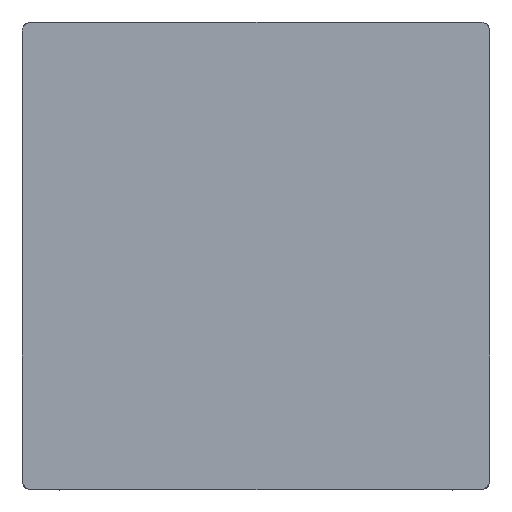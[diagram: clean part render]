
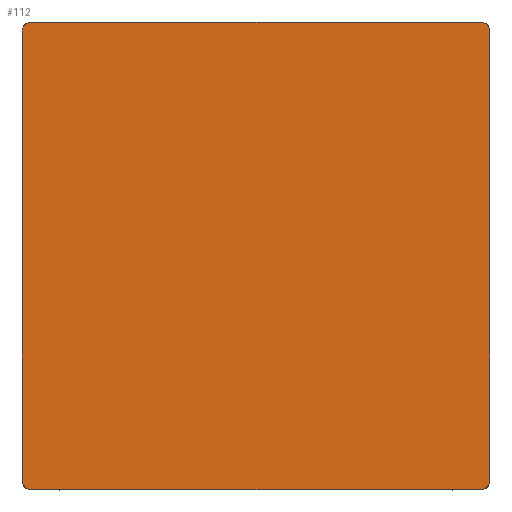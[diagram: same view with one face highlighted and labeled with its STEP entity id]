
A CAD part, top view. The second image highlights one B-rep face of the part: STEP entity #112.
In plain terms, the highlighted planar face has unit normal (0, 0, 1).
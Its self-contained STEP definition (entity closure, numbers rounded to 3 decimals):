
#112=ADVANCED_FACE($,(#342),#2814,.T.);
#342=FACE_OUTER_BOUND($,#572,.T.);
#572=EDGE_LOOP($,(#836,#837,#838,#839,#840,#841,#842,#843));
#836=ORIENTED_EDGE($,*,*,#1887,.F.);
#837=ORIENTED_EDGE($,*,*,#1878,.F.);
#838=ORIENTED_EDGE($,*,*,#1886,.F.);
#839=ORIENTED_EDGE($,*,*,#1877,.F.);
#840=ORIENTED_EDGE($,*,*,#1885,.F.);
#841=ORIENTED_EDGE($,*,*,#1876,.F.);
#842=ORIENTED_EDGE($,*,*,#1884,.F.);
#843=ORIENTED_EDGE($,*,*,#1879,.F.);
#1876=EDGE_CURVE($,#2405,#2404,#3070,.T.);
#1877=EDGE_CURVE($,#2407,#2406,#3071,.T.);
#1878=EDGE_CURVE($,#2409,#2408,#3072,.T.);
#1879=EDGE_CURVE($,#2411,#2410,#3073,.T.);
#1884=EDGE_CURVE($,#2410,#2405,#2918,.T.);
#1885=EDGE_CURVE($,#2404,#2407,#2919,.T.);
#1886=EDGE_CURVE($,#2406,#2409,#2920,.T.);
#1887=EDGE_CURVE($,#2408,#2411,#2921,.T.);
#2404=VERTEX_POINT($,#3870);
#2405=VERTEX_POINT($,#3871);
#2406=VERTEX_POINT($,#3872);
#2407=VERTEX_POINT($,#3873);
#2408=VERTEX_POINT($,#3874);
#2409=VERTEX_POINT($,#3875);
#2410=VERTEX_POINT($,#3876);
#2411=VERTEX_POINT($,#3877);
#2814=PLANE($,#3528);
#2918=(
BOUNDED_CURVE()
B_SPLINE_CURVE(2,(#3764,#3765,#3766),.UNSPECIFIED.,.F.,.F.)
B_SPLINE_CURVE_WITH_KNOTS((3,3),(-1.,0.),.UNSPECIFIED.)
CURVE()
GEOMETRIC_REPRESENTATION_ITEM()
RATIONAL_B_SPLINE_CURVE((1.,0.707,1.))
REPRESENTATION_ITEM($)
);
#2919=(
BOUNDED_CURVE()
B_SPLINE_CURVE(2,(#3767,#3768,#3769),.UNSPECIFIED.,.F.,.F.)
B_SPLINE_CURVE_WITH_KNOTS((3,3),(0.,1.),.UNSPECIFIED.)
CURVE()
GEOMETRIC_REPRESENTATION_ITEM()
RATIONAL_B_SPLINE_CURVE((1.,0.707,1.))
REPRESENTATION_ITEM($)
);
#2920=(
BOUNDED_CURVE()
B_SPLINE_CURVE(2,(#3770,#3771,#3772),.UNSPECIFIED.,.F.,.F.)
B_SPLINE_CURVE_WITH_KNOTS((3,3),(0.,1.),.UNSPECIFIED.)
CURVE()
GEOMETRIC_REPRESENTATION_ITEM()
RATIONAL_B_SPLINE_CURVE((1.,0.707,1.))
REPRESENTATION_ITEM($)
);
#2921=(
BOUNDED_CURVE()
B_SPLINE_CURVE(2,(#3773,#3774,#3775),.UNSPECIFIED.,.F.,.F.)
B_SPLINE_CURVE_WITH_KNOTS((3,3),(0.,1.),.UNSPECIFIED.)
CURVE()
GEOMETRIC_REPRESENTATION_ITEM()
RATIONAL_B_SPLINE_CURVE((1.,0.707,1.))
REPRESENTATION_ITEM($)
);
#3070=B_SPLINE_CURVE_WITH_KNOTS($,1,(#3744,#3745),.UNSPECIFIED.,.F.,.F.,
(2,2),(30.,1470.),.UNSPECIFIED.);
#3071=B_SPLINE_CURVE_WITH_KNOTS($,1,(#3746,#3747),.UNSPECIFIED.,.F.,.F.,
(2,2),(30.,1470.),.UNSPECIFIED.);
#3072=B_SPLINE_CURVE_WITH_KNOTS($,1,(#3748,#3749),.UNSPECIFIED.,.F.,.F.,
(2,2),(30.,1470.),.UNSPECIFIED.);
#3073=B_SPLINE_CURVE_WITH_KNOTS($,1,(#3750,#3751),.UNSPECIFIED.,.F.,.F.,
(2,2),(30.,1470.),.UNSPECIFIED.);
#3528=AXIS2_PLACEMENT_3D($,#3810,#3633,$);
#3633=DIRECTION($,(0.,0.,1.));
#3744=CARTESIAN_POINT($,(0.,30.,734.));
#3745=CARTESIAN_POINT($,(0.,1470.,734.));
#3746=CARTESIAN_POINT($,(30.,1500.,734.));
#3747=CARTESIAN_POINT($,(1470.,1500.,734.));
#3748=CARTESIAN_POINT($,(1500.,1470.,734.));
#3749=CARTESIAN_POINT($,(1500.,30.,734.));
#3750=CARTESIAN_POINT($,(1470.,0.,734.));
#3751=CARTESIAN_POINT($,(30.,0.,734.));
#3764=CARTESIAN_POINT($,(30.,0.,734.));
#3765=CARTESIAN_POINT($,(0.,0.,734.));
#3766=CARTESIAN_POINT($,(0.,30.,734.));
#3767=CARTESIAN_POINT($,(0.,1470.,734.));
#3768=CARTESIAN_POINT($,(0.,1500.,734.));
#3769=CARTESIAN_POINT($,(30.,1500.,734.));
#3770=CARTESIAN_POINT($,(1470.,1500.,734.));
#3771=CARTESIAN_POINT($,(1500.,1500.,734.));
#3772=CARTESIAN_POINT($,(1500.,1470.,734.));
#3773=CARTESIAN_POINT($,(1500.,30.,734.));
#3774=CARTESIAN_POINT($,(1500.,0.,734.));
#3775=CARTESIAN_POINT($,(1470.,0.,734.));
#3810=CARTESIAN_POINT($,(0.,0.,734.));
#3870=CARTESIAN_POINT($,(0.,1470.,734.));
#3871=CARTESIAN_POINT($,(0.,30.,734.));
#3872=CARTESIAN_POINT($,(1470.,1500.,734.));
#3873=CARTESIAN_POINT($,(30.,1500.,734.));
#3874=CARTESIAN_POINT($,(1500.,30.,734.));
#3875=CARTESIAN_POINT($,(1500.,1470.,734.));
#3876=CARTESIAN_POINT($,(30.,0.,734.));
#3877=CARTESIAN_POINT($,(1470.,0.,734.));
